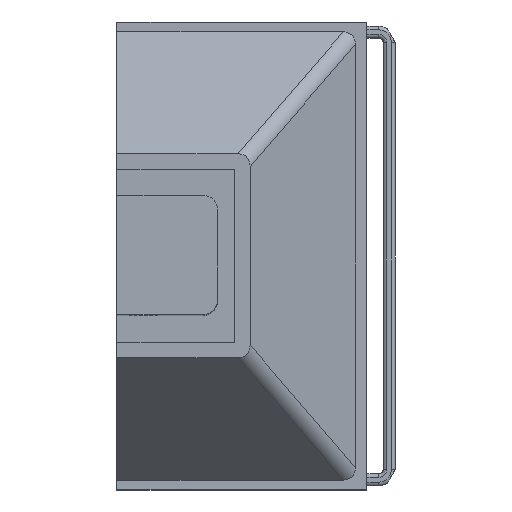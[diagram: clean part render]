
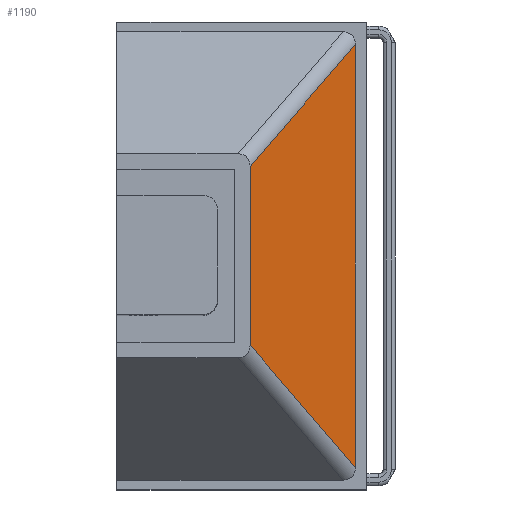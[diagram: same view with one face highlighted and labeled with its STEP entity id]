
A CAD part, top view. The second image highlights one B-rep face of the part: STEP entity #1190.
In plain terms, the highlighted planar face has unit normal (0.81, 0, 0.587).
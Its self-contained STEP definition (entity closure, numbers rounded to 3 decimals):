
#1190=ADVANCED_FACE('',(#2264),#2265,.T.);
#2264=FACE_OUTER_BOUND('',#5053,.T.);
#2265=PLANE('',#5054);
#5053=EDGE_LOOP('',(#8830,#8831,#8832,#8833,#8834));
#5054=AXIS2_PLACEMENT_3D('',#8835,#8836,#8837);
#8830=ORIENTED_EDGE('',*,*,#10108,.F.);
#8831=ORIENTED_EDGE('',*,*,#10109,.F.);
#8832=ORIENTED_EDGE('',*,*,#10110,.T.);
#8833=ORIENTED_EDGE('',*,*,#10111,.T.);
#8834=ORIENTED_EDGE('',*,*,#10112,.F.);
#8835=CARTESIAN_POINT('',(458.0,500.0,0.));
#8836=DIRECTION('',(0.81,0.0,0.587));
#8837=DIRECTION('',(0.0,-1.0,0.0));
#10108=EDGE_CURVE('',#12083,#12084,#12085,.T.);
#10109=EDGE_CURVE('',#12086,#12083,#12087,.T.);
#10110=EDGE_CURVE('',#12086,#12088,#12089,.T.);
#10111=EDGE_CURVE('',#12088,#12090,#12091,.T.);
#10112=EDGE_CURVE('',#12084,#12090,#12092,.T.);
#12083=VERTEX_POINT('',#15959);
#12084=VERTEX_POINT('',#15960);
#12085=LINE('',#15961,#15962);
#12086=VERTEX_POINT('',#15963);
#12087=LINE('',#15964,#15965);
#12088=VERTEX_POINT('',#15966);
#12089=LINE('',#15967,#15968);
#12090=VERTEX_POINT('',#15969);
#12091=LINE('',#15970,#15971);
#12092=LINE('',#15972,#15973);
#15959=CARTESIAN_POINT('',(458.0,-406.091,0.));
#15960=CARTESIAN_POINT('',(255.835,-171.365,278.862));
#15961=CARTESIAN_POINT('',(255.907,-171.449,278.762));
#15962=VECTOR('',#17459,1.0);
#15963=CARTESIAN_POINT('',(458.0,406.091,0.));
#15964=CARTESIAN_POINT('',(458.0,0.,0.));
#15965=VECTOR('',#17460,1.0);
#15966=CARTESIAN_POINT('',(255.98,171.533,278.663));
#15967=CARTESIAN_POINT('',(357.61,289.532,138.476));
#15968=VECTOR('',#17461,1.0);
#15969=CARTESIAN_POINT('',(255.835,171.366,278.862));
#15970=CARTESIAN_POINT('',(255.907,171.449,278.762));
#15971=VECTOR('',#17462,1.0);
#15972=CARTESIAN_POINT('',(255.835,0.,278.862));
#15973=VECTOR('',#17463,1.0);
#17459=DIRECTION('',(-0.485,0.563,0.669));
#17460=DIRECTION('',(0.0,-1.0,0.));
#17461=DIRECTION('',(-0.485,-0.563,0.669));
#17462=DIRECTION('',(-0.485,-0.563,0.669));
#17463=DIRECTION('',(0.0,1.0,0.0));
